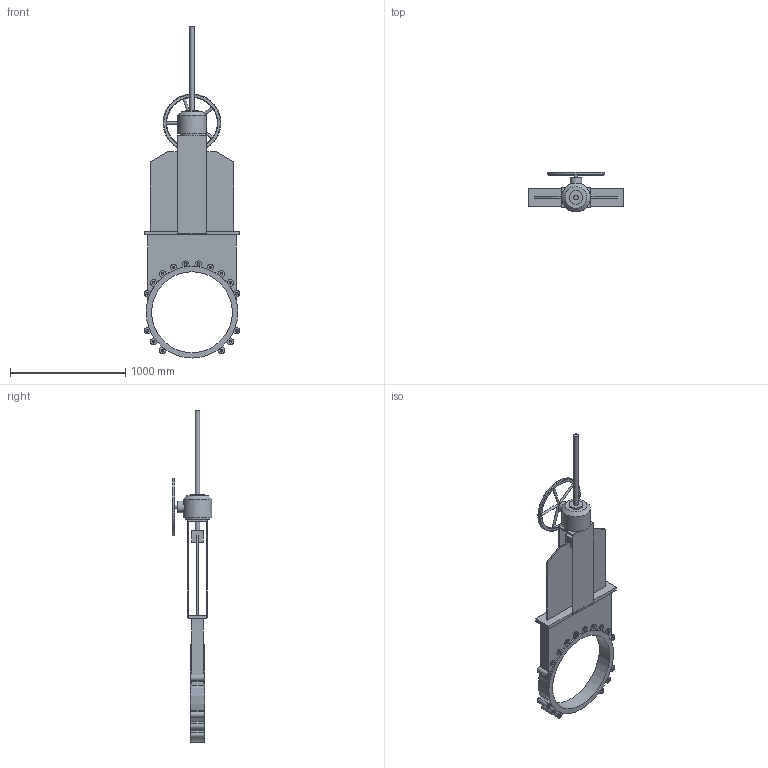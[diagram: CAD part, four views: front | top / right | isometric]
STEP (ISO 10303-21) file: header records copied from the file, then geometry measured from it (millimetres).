
FILE_DESCRIPTION(('STEP AP203'), '1');
FILE_NAME('Çàäâèæêà øèáåðíàÿ K21GV DN700 ðåäóêòîð+âûäâèæíîé øïèíäåëü', '', ('UNSPECIFIED'), ('UNSPECIFIED'), 'ASCON STEP Converter 1.6', 'ASCON Math Kernel', '');
FILE_SCHEMA(('CONFIG_CONTROL_DESIGN'));
Length unit declared in the file: millimetre
Bounding box: 831.01 x 345 x 2877 mm (x, y, z)
Volume: 68555392.6 mm3; surface area: 4280245.9 mm2
Topology: 1 solids, 1 shells, 259 faces, 704 edges, 450 vertices
Faces by surface type: plane 141, cylinder 81, cone 33, torus 4
Full cylindrical faces by diameter (mm): 20 x5, 23.752 x32, 30 x1, 40 x2, 100 x1, 120 x1, 210 x1, 250 x1, 500 x1, 700 x1, 794 x1
Entity records: 11933 total; most frequent: CARTESIAN_POINT 3746, DIRECTION 1276, ORIENTED_EDGE 1174, EDGE_CURVE 587, AXIS2_PLACEMENT_3D 481, VERTEX_POINT 418, EDGE_LOOP 363, LINE 314
